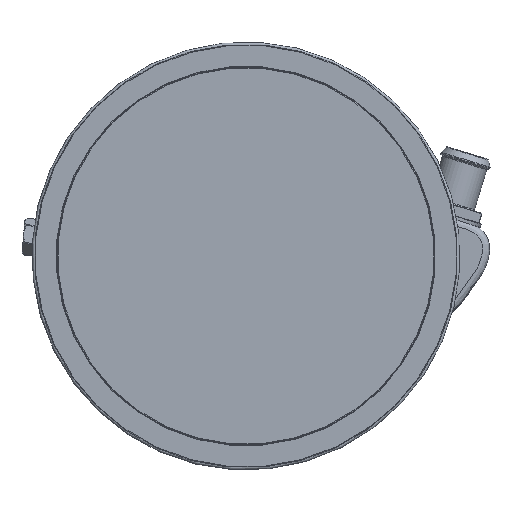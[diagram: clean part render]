
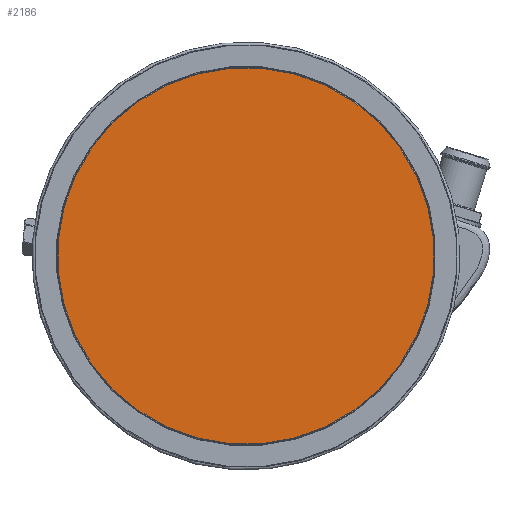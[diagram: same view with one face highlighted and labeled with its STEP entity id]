
A CAD part, front view. The second image highlights one B-rep face of the part: STEP entity #2186.
In plain terms, the highlighted planar face has unit normal (0, -1, 0).
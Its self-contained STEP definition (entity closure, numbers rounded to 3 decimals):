
#2170=CARTESIAN_POINT('',(-52.663,6.055,5.266));
#2171=DIRECTION('',(0.,1.,0.));
#2172=DIRECTION('',(-0.087,0.,-0.996));
#2173=AXIS2_PLACEMENT_3D('',#2170,#2171,#2172);
#2174=PLANE('',#2173);
#2175=CARTESIAN_POINT('',(-73.06,6.055,7.049));
#2176=VERTEX_POINT('',#2175);
#2177=CARTESIAN_POINT('',(7.582,6.055,0.));
#2178=DIRECTION('',(0.,1.,0.));
#2179=DIRECTION('',(-0.996,0.,0.087));
#2180=AXIS2_PLACEMENT_3D('',#2177,#2178,#2179);
#2181=CIRCLE('',#2180,80.95);
#2182=EDGE_CURVE('',#2176,#2176,#2181,.T.);
#2183=ORIENTED_EDGE('',*,*,#2182,.F.);
#2184=EDGE_LOOP('',(#2183));
#2185=FACE_OUTER_BOUND('',#2184,.T.);
#2186=ADVANCED_FACE('',(#2185),#2174,.F.);
